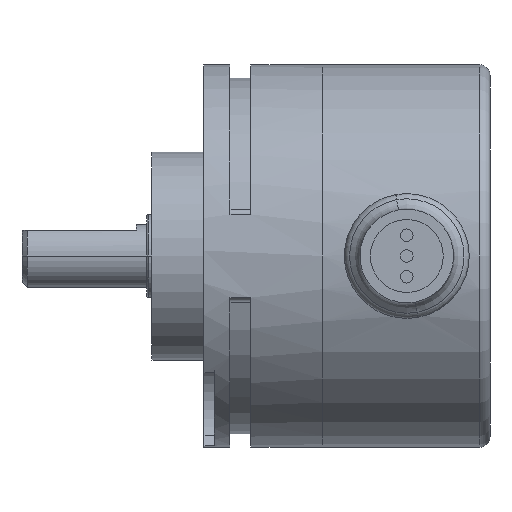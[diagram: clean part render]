
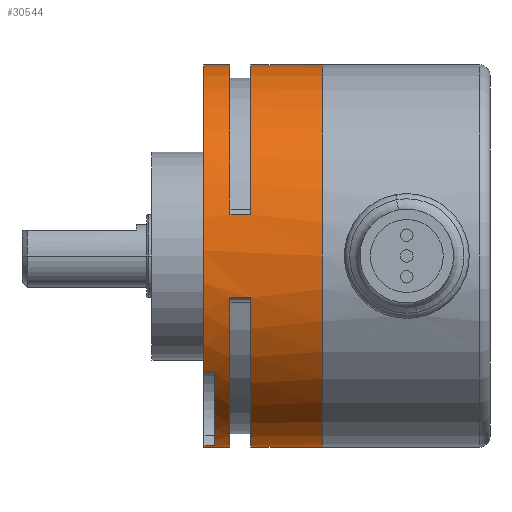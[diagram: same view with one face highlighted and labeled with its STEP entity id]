
A CAD part, front view. The second image highlights one B-rep face of the part: STEP entity #30544.
In plain terms, the highlighted cylindrical face has radius 18.4 mm (diameter 36.8 mm), a partial arc.
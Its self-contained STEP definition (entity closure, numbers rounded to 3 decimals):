
#251 = CARTESIAN_POINT ( 'NONE',  ( -35.78, 4.304, 11.589 ) ) ;
#266 = DIRECTION ( 'NONE',  ( -1., 0., 0. ) ) ;
#267 = VECTOR ( 'NONE', #266, 1000. ) ;
#268 = CARTESIAN_POINT ( 'NONE',  ( -52.18, 4.304, -25.211 ) ) ;
#269 = LINE ( 'NONE', #268, #267 ) ;
#270 = CARTESIAN_POINT ( 'NONE',  ( -35.78, 4.304, -25.211 ) ) ;
#288 = CARTESIAN_POINT ( 'NONE',  ( -44.68, 4.304, 11.589 ) ) ;
#289 = DIRECTION ( 'NONE',  ( -1., 0., 0. ) ) ;
#290 = VECTOR ( 'NONE', #289, 1000. ) ;
#291 = CARTESIAN_POINT ( 'NONE',  ( -52.18, 4.304, 11.589 ) ) ;
#293 = LINE ( 'NONE', #291, #290 ) ;
#298 = CARTESIAN_POINT ( 'NONE',  ( -47.18, 4.304, 11.589 ) ) ;
#1670 = VECTOR ( 'NONE', #1677, 1000. ) ;
#1671 = CARTESIAN_POINT ( 'NONE',  ( -52.18, 4.304, -25.211 ) ) ;
#1672 = LINE ( 'NONE', #1671, #1670 ) ;
#1676 = CARTESIAN_POINT ( 'NONE',  ( -42.68, 4.304, -25.211 ) ) ;
#1677 = DIRECTION ( 'NONE',  ( -1., 0., 0. ) ) ;
#1844 = CARTESIAN_POINT ( 'NONE',  ( -47.18, 4.304, -25.211 ) ) ;
#1845 = CARTESIAN_POINT ( 'NONE',  ( -44.68, 4.304, -25.211 ) ) ;
#30341 = EDGE_CURVE ( 'NONE', #52352, #30342, #44228, .T. ) ;
#30342 = VERTEX_POINT ( 'NONE', #44223 ) ;
#30345 = ORIENTED_EDGE ( 'NONE', *, *, #30347, .T. ) ;
#30347 = EDGE_CURVE ( 'NONE', #30342, #30349, #44305, .T. ) ;
#30349 = VERTEX_POINT ( 'NONE', #44301 ) ;
#30360 = EDGE_CURVE ( 'NONE', #52454, #52453, #44238, .T. ) ;
#30363 = ORIENTED_EDGE ( 'NONE', *, *, #52354, .T. ) ;
#30368 = ORIENTED_EDGE ( 'NONE', *, *, #30341, .T. ) ;
#30383 = ORIENTED_EDGE ( 'NONE', *, *, #52462, .T. ) ;
#30387 = ORIENTED_EDGE ( 'NONE', *, *, #30527, .F. ) ;
#30390 = ORIENTED_EDGE ( 'NONE', *, *, #30516, .F. ) ;
#30425 = EDGE_CURVE ( 'NONE', #30628, #52641, #44245, .T. ) ;
#30516 = EDGE_CURVE ( 'NONE', #30520, #30649, #44551, .T. ) ;
#30520 = VERTEX_POINT ( 'NONE', #44546 ) ;
#30522 = ORIENTED_EDGE ( 'NONE', *, *, #30524, .F. ) ;
#30524 = EDGE_CURVE ( 'NONE', #30525, #30520, #44539, .T. ) ;
#30525 = VERTEX_POINT ( 'NONE', #44535 ) ;
#30527 = EDGE_CURVE ( 'NONE', #30649, #52460, #44533, .T. ) ;
#30544 = ADVANCED_FACE ( 'NONE', ( #44515 ), #44754, .T. ) ;
#30548 = EDGE_LOOP ( 'NONE', ( #30723, #30727, #30363, #30368, #30345, #30734, #30383, #30387, #30390, #30522, #30604, #30609, #30612, #30616, #30622, #30633 ) ) ;
#30604 = ORIENTED_EDGE ( 'NONE', *, *, #30607, .T. ) ;
#30607 = EDGE_CURVE ( 'NONE', #30525, #30714, #44617, .T. ) ;
#30609 = ORIENTED_EDGE ( 'NONE', *, *, #30658, .F. ) ;
#30612 = ORIENTED_EDGE ( 'NONE', *, *, #52456, .F. ) ;
#30616 = ORIENTED_EDGE ( 'NONE', *, *, #30619, .F. ) ;
#30619 = EDGE_CURVE ( 'NONE', #30621, #52699, #44662, .T. ) ;
#30621 = VERTEX_POINT ( 'NONE', #44613 ) ;
#30622 = ORIENTED_EDGE ( 'NONE', *, *, #30625, .F. ) ;
#30625 = EDGE_CURVE ( 'NONE', #30628, #30621, #44612, .T. ) ;
#30628 = VERTEX_POINT ( 'NONE', #44608 ) ;
#30633 = ORIENTED_EDGE ( 'NONE', *, *, #30425, .T. ) ;
#30649 = VERTEX_POINT ( 'NONE', #44591 ) ;
#30658 = EDGE_CURVE ( 'NONE', #52700, #30714, #44748, .T. ) ;
#30714 = VERTEX_POINT ( 'NONE', #44948 ) ;
#30723 = ORIENTED_EDGE ( 'NONE', *, *, #52640, .F. ) ;
#30727 = ORIENTED_EDGE ( 'NONE', *, *, #30360, .T. ) ;
#30734 = ORIENTED_EDGE ( 'NONE', *, *, #30736, .F. ) ;
#30736 = EDGE_CURVE ( 'NONE', #52463, #30349, #44958, .T. ) ;
#44223 = CARTESIAN_POINT ( 'NONE',  ( -42.68, -13.656, -2.811 ) ) ;
#44224 = DIRECTION ( 'NONE',  ( 0., 0., -1. ) ) ;
#44225 = DIRECTION ( 'NONE',  ( 1., 0., 0. ) ) ;
#44226 = CARTESIAN_POINT ( 'NONE',  ( -42.68, 4.304, -6.811 ) ) ;
#44227 = AXIS2_PLACEMENT_3D ( 'NONE', #44226, #44225, #44224 ) ;
#44228 = CIRCLE ( 'NONE', #44227, 18.4 ) ;
#44235 = DIRECTION ( 'NONE',  ( 0., 0., 1. ) ) ;
#44236 = DIRECTION ( 'NONE',  ( -1., 0., 0. ) ) ;
#44237 = AXIS2_PLACEMENT_3D ( 'NONE', #44288, #44236, #44235 ) ;
#44238 = CIRCLE ( 'NONE', #44237, 18.4 ) ;
#44245 = CIRCLE ( 'NONE', #44259, 18.4 ) ;
#44256 = DIRECTION ( 'NONE',  ( 0., 0., -1. ) ) ;
#44257 = DIRECTION ( 'NONE',  ( 1., 0., 0. ) ) ;
#44258 = CARTESIAN_POINT ( 'NONE',  ( -42.68, 4.304, -6.811 ) ) ;
#44259 = AXIS2_PLACEMENT_3D ( 'NONE', #44258, #44257, #44256 ) ;
#44288 = CARTESIAN_POINT ( 'NONE',  ( -35.78, 4.304, -6.811 ) ) ;
#44301 = CARTESIAN_POINT ( 'NONE',  ( -44.68, -13.656, -2.811 ) ) ;
#44302 = DIRECTION ( 'NONE',  ( -1., 0., 0. ) ) ;
#44303 = VECTOR ( 'NONE', #44302, 1000. ) ;
#44304 = CARTESIAN_POINT ( 'NONE',  ( -42.68, -13.656, -2.811 ) ) ;
#44305 = LINE ( 'NONE', #44304, #44303 ) ;
#44515 = FACE_OUTER_BOUND ( 'NONE', #30548, .T. ) ;
#44529 = DIRECTION ( 'NONE',  ( 0., 0., 1. ) ) ;
#44530 = DIRECTION ( 'NONE',  ( -1., 0., 0. ) ) ;
#44531 = CARTESIAN_POINT ( 'NONE',  ( -47.18, 4.304, -6.811 ) ) ;
#44532 = AXIS2_PLACEMENT_3D ( 'NONE', #44531, #44530, #44529 ) ;
#44533 = CIRCLE ( 'NONE', #44532, 18.4 ) ;
#44535 = CARTESIAN_POINT ( 'NONE',  ( -46.18, 1.858, -25.048 ) ) ;
#44536 = DIRECTION ( 'NONE',  ( 0., 0., 1. ) ) ;
#44537 = DIRECTION ( 'NONE',  ( -1., 0., 0. ) ) ;
#44538 = AXIS2_PLACEMENT_3D ( 'NONE', #44544, #44537, #44536 ) ;
#44539 = CIRCLE ( 'NONE', #44538, 18.4 ) ;
#44544 = CARTESIAN_POINT ( 'NONE',  ( -46.18, 4.304, -6.811 ) ) ;
#44546 = CARTESIAN_POINT ( 'NONE',  ( -46.18, -10.266, -18.048 ) ) ;
#44548 = DIRECTION ( 'NONE',  ( -1., 0., 0. ) ) ;
#44549 = VECTOR ( 'NONE', #44548, 1000. ) ;
#44550 = CARTESIAN_POINT ( 'NONE',  ( -46.18, -10.266, -18.048 ) ) ;
#44551 = LINE ( 'NONE', #44550, #44549 ) ;
#44590 = CARTESIAN_POINT ( 'NONE',  ( -47.18, 4.304, -6.811 ) ) ;
#44591 = CARTESIAN_POINT ( 'NONE',  ( -47.18, -10.266, -18.048 ) ) ;
#44608 = CARTESIAN_POINT ( 'NONE',  ( -42.68, -13.656, -10.811 ) ) ;
#44609 = DIRECTION ( 'NONE',  ( -1., 0., 0. ) ) ;
#44610 = VECTOR ( 'NONE', #44609, 1000. ) ;
#44611 = CARTESIAN_POINT ( 'NONE',  ( -42.68, -13.656, -10.811 ) ) ;
#44612 = LINE ( 'NONE', #44611, #44610 ) ;
#44613 = CARTESIAN_POINT ( 'NONE',  ( -44.68, -13.656, -10.811 ) ) ;
#44614 = DIRECTION ( 'NONE',  ( 0., 0., -1. ) ) ;
#44615 = VECTOR ( 'NONE', #44664, 1000. ) ;
#44616 = CARTESIAN_POINT ( 'NONE',  ( -46.18, 1.858, -25.048 ) ) ;
#44617 = LINE ( 'NONE', #44616, #44615 ) ;
#44655 = DIRECTION ( 'NONE',  ( 1., 0., 0. ) ) ;
#44656 = CARTESIAN_POINT ( 'NONE',  ( -44.68, 4.304, -6.811 ) ) ;
#44657 = AXIS2_PLACEMENT_3D ( 'NONE', #44656, #44655, #44614 ) ;
#44662 = CIRCLE ( 'NONE', #44657, 18.4 ) ;
#44664 = DIRECTION ( 'NONE',  ( -1., 0., 0. ) ) ;
#44700 = AXIS2_PLACEMENT_3D ( 'NONE', #44758, #44757, #44756 ) ;
#44745 = DIRECTION ( 'NONE',  ( 0., 0., 1. ) ) ;
#44746 = DIRECTION ( 'NONE',  ( -1., 0., 0. ) ) ;
#44747 = AXIS2_PLACEMENT_3D ( 'NONE', #44590, #44746, #44745 ) ;
#44748 = CIRCLE ( 'NONE', #44747, 18.4 ) ;
#44754 = CYLINDRICAL_SURFACE ( 'NONE', #44700, 18.4 ) ;
#44756 = DIRECTION ( 'NONE',  ( 0., 0., 1. ) ) ;
#44757 = DIRECTION ( 'NONE',  ( -1., 0., 0. ) ) ;
#44758 = CARTESIAN_POINT ( 'NONE',  ( -52.18, 4.304, -6.811 ) ) ;
#44948 = CARTESIAN_POINT ( 'NONE',  ( -47.18, 1.858, -25.048 ) ) ;
#44954 = DIRECTION ( 'NONE',  ( 0., 0., -1. ) ) ;
#44955 = DIRECTION ( 'NONE',  ( 1., 0., 0. ) ) ;
#44956 = CARTESIAN_POINT ( 'NONE',  ( -44.68, 4.304, -6.811 ) ) ;
#44957 = AXIS2_PLACEMENT_3D ( 'NONE', #44956, #44955, #44954 ) ;
#44958 = CIRCLE ( 'NONE', #44957, 18.4 ) ;
#52352 = VERTEX_POINT ( 'NONE', #57090 ) ;
#52354 = EDGE_CURVE ( 'NONE', #52453, #52352, #57085, .T. ) ;
#52453 = VERTEX_POINT ( 'NONE', #251 ) ;
#52454 = VERTEX_POINT ( 'NONE', #270 ) ;
#52456 = EDGE_CURVE ( 'NONE', #52699, #52700, #269, .T. ) ;
#52460 = VERTEX_POINT ( 'NONE', #298 ) ;
#52462 = EDGE_CURVE ( 'NONE', #52463, #52460, #293, .T. ) ;
#52463 = VERTEX_POINT ( 'NONE', #288 ) ;
#52640 = EDGE_CURVE ( 'NONE', #52454, #52641, #1672, .T. ) ;
#52641 = VERTEX_POINT ( 'NONE', #1676 ) ;
#52699 = VERTEX_POINT ( 'NONE', #1845 ) ;
#52700 = VERTEX_POINT ( 'NONE', #1844 ) ;
#57082 = DIRECTION ( 'NONE',  ( -1., 0., 0. ) ) ;
#57083 = VECTOR ( 'NONE', #57082, 1000. ) ;
#57084 = CARTESIAN_POINT ( 'NONE',  ( -52.18, 4.304, 11.589 ) ) ;
#57085 = LINE ( 'NONE', #57084, #57083 ) ;
#57090 = CARTESIAN_POINT ( 'NONE',  ( -42.68, 4.304, 11.589 ) ) ;
